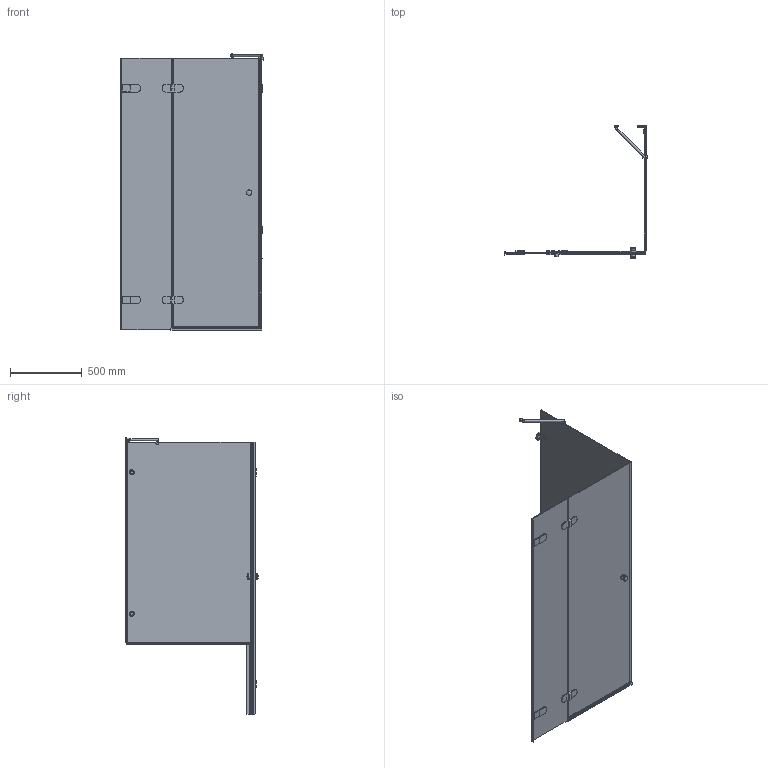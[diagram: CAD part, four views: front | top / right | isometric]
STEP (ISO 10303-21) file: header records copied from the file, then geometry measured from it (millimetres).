
FILE_DESCRIPTION(/* description */ (''),/* implementation_level */ '2;1');
FILE_NAME(/* name */ 'E:\Работа\Сергей\Душевые кабинки\! Работа\LUX SQUARE GK-003V-2522\LUX SQUARE GK-003V-2522 левая модель\LUX SQUARE GK-003V-2522 ЛЕВАЯ-3D.stp',/* time_stamp */ '2017-06-05T19:57:56+03:00',/* author */ ('PC'),/* organization */ (''),/* preprocessor_version */ 'ST-DEVELOPER v15.2',/* originating_system */ 'Autodesk Inventor 2014',/* authorisation */ '');
FILE_SCHEMA (('AUTOMOTIVE_DESIGN { 1 0 10303 214 3 1 1 }'));
Length unit declared in the file: millimetre
Products named in the file (1): LUX SQUARE GK-003V-2522 ЛЕВАЯ-3
D
Bounding box: 995.36 x 928 x 1931.49 mm (x, y, z)
Volume: 19734740.3 mm3; surface area: 6808718 mm2
Topology: 4 solids, 4 shells, 725 faces, 1928 edges, 1239 vertices
Faces by surface type: plane 490, cylinder 202, torus 16, bspline 8, sphere 7, cone 2
Full cylindrical faces by diameter (mm): 12 x1, 15 x1, 20 x2, 26 x1, 30 x2, 35 x2, 38 x4, 40 x2
Entity records: 23541 total; most frequent: CARTESIAN_POINT 4671, ORIENTED_EDGE 3782, DIRECTION 3710, EDGE_CURVE 1888, LINE 1374, VECTOR 1374, VERTEX_POINT 1227, AXIS2_PLACEMENT_3D 1168
